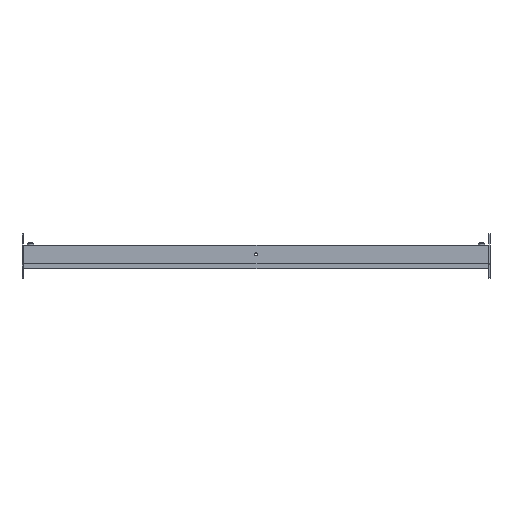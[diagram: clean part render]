
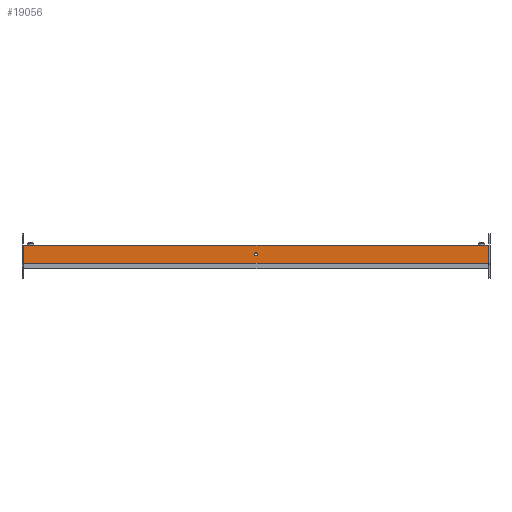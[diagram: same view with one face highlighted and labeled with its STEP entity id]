
A CAD part, top view. The second image highlights one B-rep face of the part: STEP entity #19056.
In plain terms, the highlighted planar face has unit normal (0, 0, 1).
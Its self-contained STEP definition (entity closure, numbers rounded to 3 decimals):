
#1337 = CARTESIAN_POINT ( 'NONE',  ( 2860.64, 1603.526, 397.111 ) ) ;
#1978 = EDGE_LOOP ( 'NONE', ( #4547, #17704 ) ) ;
#2280 = DIRECTION ( 'NONE',  ( 0., 1., 0. ) ) ;
#2604 = CARTESIAN_POINT ( 'NONE',  ( 2410.14, 1645.247, 397.111 ) ) ;
#2849 = CARTESIAN_POINT ( 'NONE',  ( 2410.14, 1642.647, 397.111 ) ) ;
#3081 = DIRECTION ( 'NONE',  ( 0., 1., 0. ) ) ;
#3149 = DIRECTION ( 'NONE',  ( 0., 0., -1. ) ) ;
#3205 = VECTOR ( 'NONE', #15346, 1000. ) ;
#4128 = CARTESIAN_POINT ( 'NONE',  ( 1959.64, 1627.547, 397.111 ) ) ;
#4152 = VERTEX_POINT ( 'NONE', #13300 ) ;
#4202 = DIRECTION ( 'NONE',  ( 0., 1., 0. ) ) ;
#4547 = ORIENTED_EDGE ( 'NONE', *, *, #17403, .F. ) ;
#4638 = VECTOR ( 'NONE', #12022, 1000. ) ;
#4730 = FACE_BOUND ( 'NONE', #1978, .T. ) ;
#5655 = LINE ( 'NONE', #18069, #4638 ) ;
#5750 = DIRECTION ( 'NONE',  ( 0., 0., 1. ) ) ;
#5968 = LINE ( 'NONE', #1337, #17201 ) ;
#6230 = CARTESIAN_POINT ( 'NONE',  ( 2410.14, 1645.247, 397.111 ) ) ;
#6478 = EDGE_CURVE ( 'NONE', #4152, #11268, #18487, .T. ) ;
#7364 = EDGE_LOOP ( 'NONE', ( #15608, #14459, #16070, #12157 ) ) ;
#7369 = VERTEX_POINT ( 'NONE', #4128 ) ;
#7520 = VERTEX_POINT ( 'NONE', #2849 ) ;
#8972 = CARTESIAN_POINT ( 'NONE',  ( 1956.14, 1663.047, 397.111 ) ) ;
#9373 = CARTESIAN_POINT ( 'NONE',  ( 2410.14, 1647.847, 397.111 ) ) ;
#9518 = DIRECTION ( 'NONE',  ( -1., 0., 0. ) ) ;
#9583 = VERTEX_POINT ( 'NONE', #9373 ) ;
#9898 = CIRCLE ( 'NONE', #16256, 2.6 ) ;
#10767 = EDGE_CURVE ( 'NONE', #7520, #9583, #9898, .T. ) ;
#11093 = PLANE ( 'NONE',  #14216 ) ;
#11135 = CIRCLE ( 'NONE', #20172, 2.6 ) ;
#11230 = DIRECTION ( 'NONE',  ( 0., 0., 1. ) ) ;
#11268 = VERTEX_POINT ( 'NONE', #12497 ) ;
#12022 = DIRECTION ( 'NONE',  ( -1., 0., 0. ) ) ;
#12157 = ORIENTED_EDGE ( 'NONE', *, *, #12265, .F. ) ;
#12265 = EDGE_CURVE ( 'NONE', #17498, #7369, #5655, .T. ) ;
#12497 = CARTESIAN_POINT ( 'NONE',  ( 1959.64, 1663.047, 397.111 ) ) ;
#13300 = CARTESIAN_POINT ( 'NONE',  ( 2860.64, 1663.047, 397.111 ) ) ;
#14216 = AXIS2_PLACEMENT_3D ( 'NONE', #17460, #3149, #9518 ) ;
#14459 = ORIENTED_EDGE ( 'NONE', *, *, #6478, .T. ) ;
#15346 = DIRECTION ( 'NONE',  ( -1., 0., 0. ) ) ;
#15608 = ORIENTED_EDGE ( 'NONE', *, *, #19265, .T. ) ;
#16000 = FACE_OUTER_BOUND ( 'NONE', #7364, .T. ) ;
#16070 = ORIENTED_EDGE ( 'NONE', *, *, #18698, .T. ) ;
#16137 = DIRECTION ( 'NONE',  ( 0., -1., 0. ) ) ;
#16256 = AXIS2_PLACEMENT_3D ( 'NONE', #2604, #5750, #2280 ) ;
#17201 = VECTOR ( 'NONE', #4202, 1000. ) ;
#17403 = EDGE_CURVE ( 'NONE', #9583, #7520, #11135, .T. ) ;
#17460 = CARTESIAN_POINT ( 'NONE',  ( 1956.14, 1630.347, 397.111 ) ) ;
#17498 = VERTEX_POINT ( 'NONE', #19586 ) ;
#17704 = ORIENTED_EDGE ( 'NONE', *, *, #10767, .F. ) ;
#17911 = CARTESIAN_POINT ( 'NONE',  ( 1959.64, 1603.526, 397.111 ) ) ;
#18013 = LINE ( 'NONE', #17911, #19871 ) ;
#18069 = CARTESIAN_POINT ( 'NONE',  ( 1956.14, 1627.547, 397.111 ) ) ;
#18487 = LINE ( 'NONE', #8972, #3205 ) ;
#18698 = EDGE_CURVE ( 'NONE', #11268, #7369, #18013, .T. ) ;
#19056 = ADVANCED_FACE ( 'NONE', ( #4730, #16000 ), #11093, .F. ) ;
#19265 = EDGE_CURVE ( 'NONE', #17498, #4152, #5968, .T. ) ;
#19586 = CARTESIAN_POINT ( 'NONE',  ( 2860.64, 1627.547, 397.111 ) ) ;
#19871 = VECTOR ( 'NONE', #16137, 1000. ) ;
#20172 = AXIS2_PLACEMENT_3D ( 'NONE', #6230, #11230, #3081 ) ;
